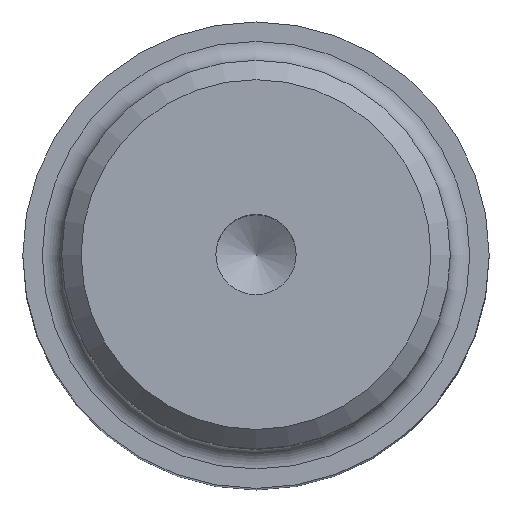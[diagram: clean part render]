
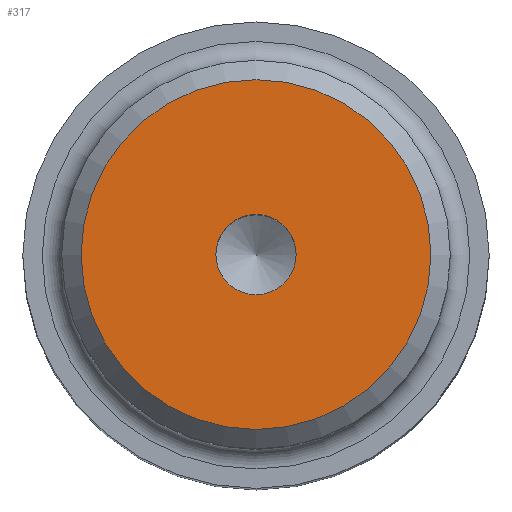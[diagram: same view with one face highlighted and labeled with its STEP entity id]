
A CAD part, top view. The second image highlights one B-rep face of the part: STEP entity #317.
In plain terms, the highlighted planar face has unit normal (0, 0, 1).
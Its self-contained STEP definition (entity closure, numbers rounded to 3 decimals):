
#40=PLANE($,#360);
#64=FACE_BOUND($,#122,.T.);
#65=FACE_BOUND($,#123,.T.);
#122=EDGE_LOOP($,(#254));
#123=EDGE_LOOP($,(#255));
#158=CIRCLE($,#357,2.067);
#159=CIRCLE($,#359,9.);
#180=VERTEX_POINT($,#524);
#181=VERTEX_POINT($,#527);
#210=EDGE_CURVE($,#180,#180,#158,.T.);
#211=EDGE_CURVE($,#181,#181,#159,.T.);
#254=ORIENTED_EDGE($,*,*,#210,.T.);
#255=ORIENTED_EDGE($,*,*,#211,.F.);
#317=ADVANCED_FACE($,(#64,#65),#40,.T.);
#357=AXIS2_PLACEMENT_3D($,#525,#430,#431);
#359=AXIS2_PLACEMENT_3D($,#528,#434,#435);
#360=AXIS2_PLACEMENT_3D($,#529,#436,#437);
#430=DIRECTION('center_axis',(0.,0.,-1.));
#431=DIRECTION('ref_axis',(1.,0.,0.));
#434=DIRECTION('center_axis',(0.,0.,-1.));
#435=DIRECTION('ref_axis',(-1.,0.,0.));
#436=DIRECTION('center_axis',(0.,0.,1.));
#437=DIRECTION('ref_axis',(1.,0.,0.));
#524=CARTESIAN_POINT('',(2.067,0.,116.));
#525=CARTESIAN_POINT('Origin',(0.,0.,116.));
#527=CARTESIAN_POINT('',(9.,0.,116.));
#528=CARTESIAN_POINT('Origin',(0.,0.,116.));
#529=CARTESIAN_POINT('Origin',(0.,0.,
116.));
